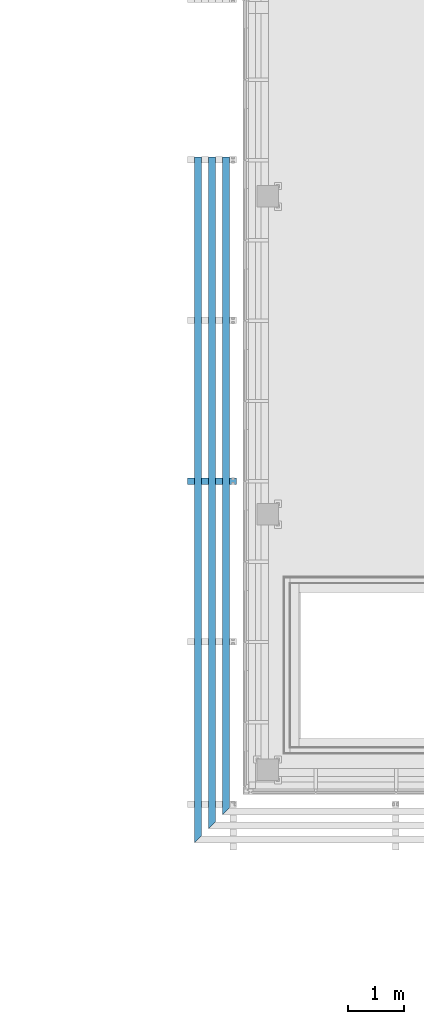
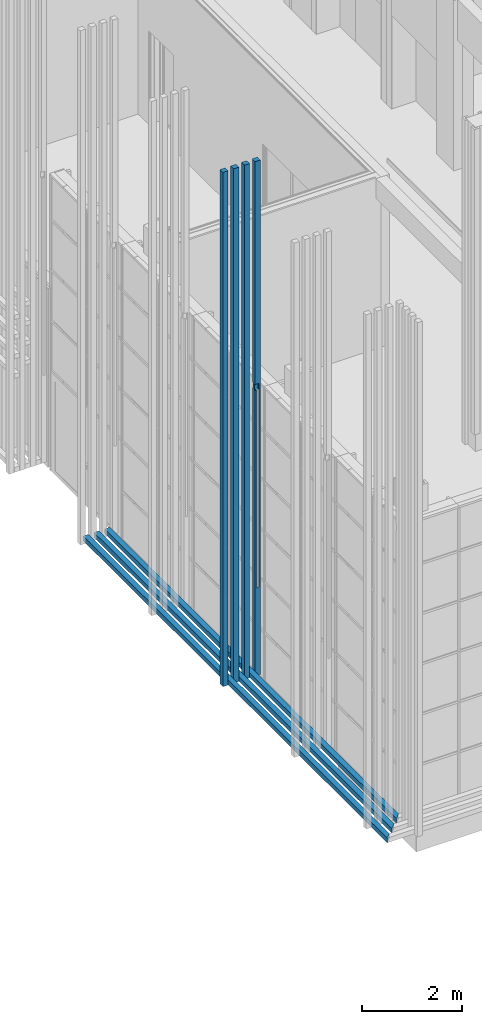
# One storey, part 130 of 260: 2 discrete accessories.
"""IFC2X3 building model written with IfcOpenShell, lengths in millimetres."""

from ifc_helpers import new_model, entity, si_unit, converted_unit, derived_unit, money_unit, direction, frame, origin_with_axes, place, context, subcontext, project, spatial, faceted_brep, material, material_list, type_object, element, save


model = new_model("IFC2X3")

# Units and contexts
model_context = context("Model", 3, precision=0.01, world=origin_with_axes(), true_north=direction((0.0, 1.0)))
body_context = subcontext(model_context, "Body", "Model", "MODEL_VIEW")
ifc_project = project(units=[si_unit("LENGTHUNIT", "METRE", prefix="MILLI"), si_unit("AREAUNIT", "SQUARE_METRE"), si_unit("VOLUMEUNIT", "CUBIC_METRE"), converted_unit("PLANEANGLEUNIT", "DEGREE", entity("IfcPlaneAngleMeasure", 0.0174532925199), si_unit("PLANEANGLEUNIT", "RADIAN"), dimensions=[0, 0, 0, 0, 0, 0, 0]), money_unit("EUR"), converted_unit("TIMEUNIT", "Year", entity("IfcTimeMeasure", 31556926.0), si_unit("TIMEUNIT", "SECOND"), dimensions=[0, 0, 1, 0, 0, 0, 0]), si_unit("MASSUNIT", "GRAM", prefix="KILO"), si_unit("THERMODYNAMICTEMPERATUREUNIT", "DEGREE_CELSIUS"), si_unit("LUMINOUSINTENSITYUNIT", "LUMEN"), si_unit("ENERGYUNIT", "JOULE", prefix="MEGA"), derived_unit("THERMALCONDUCTANCEUNIT", [(si_unit("POWERUNIT", "WATT"), 1), (si_unit("LENGTHUNIT", "METRE"), -1), (si_unit("THERMODYNAMICTEMPERATUREUNIT", "KELVIN"), -1)]), derived_unit("SPECIFICHEATCAPACITYUNIT", [(si_unit("ENERGYUNIT", "JOULE"), 1), (si_unit("MASSUNIT", "GRAM", prefix="KILO"), -1), (si_unit("THERMODYNAMICTEMPERATUREUNIT", "KELVIN"), -1)]), derived_unit("MASSDENSITYUNIT", [(si_unit("MASSUNIT", "GRAM", prefix="KILO"), 1), (si_unit("VOLUMEUNIT", "CUBIC_METRE"), -1)])], contexts=[model_context])

# Site, building, storey
site_placement = place(None, origin_with_axes())
site = spatial("IfcSite", under=ifc_project, at=site_placement, Name="Kolde pst 67a", CompositionType="ELEMENT")
building_placement = place(site_placement, origin_with_axes())
building = spatial("IfcBuilding", under=site, at=building_placement, Name="Riigigümnaasium", CompositionType="ELEMENT")
storey_placement = place(building_placement, origin_with_axes())
storey = spatial("IfcBuildingStorey", under=building, at=storey_placement, Name="1. korrus", CompositionType="ELEMENT", Elevation=0.0)

# Discrete accessories
ifc_material = material(Name="_VÄLISVIIMISTLUS - sõrmjätkatud puitprussid 120x115mm, liitekohad vähemärgatavad, Platowood sõrmjätkatud kuusk või samaväärne; eeltöödeldud tuletõkkevõõbaga, tuletundlikkus B-s1, d0, Woodsafe Exterior WFX™ või samaväärne; kinnitused vastavalt EK osale")
ifc_material_list_1 = material_list([ifc_material, ifc_material, ifc_material, ifc_material])
discrete_accessory_type_1 = type_object("IfcDiscreteAccessoryType", Name="120 4-ne vertikaalne 870 x 115")
discrete_accessory_1_placement = place(storey_placement, frame((23687.9849225, 29383.0008602, 280.0), z_axis=(0.0, 0.0, 1.0), x_axis=(0.999999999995, 3.13999128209e-06, 0.0)))
element("IfcDiscreteAccessory", 1, at=discrete_accessory_1_placement, inside=storey, type_object=discrete_accessory_type_1, material=ifc_material_list_1, Name="Päikesevarjestus", context=body_context, shape_type="Brep", body=[
    faceted_brep([(-97.981922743, -35.0000000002, 6990.0), (-47.9819227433, -35.0001569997, 6990.0), (-47.817497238, -35.000157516, 6990.0), (-47.817497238, -35.000157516, 7140.0), (-133.0, -34.9998900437, 7140.0), (-133.0, -34.9998900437, 6990.0), (-97.981922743, -35.0000000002, 2146.5), (-47.9819227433, -35.0001569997, 2146.5), (-47.982032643, -70.0001569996, 6990.0), (-47.8176071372, -70.0, 6990.0), (-47.8176071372, -70.0, 7140.0), (-133.0, -70.0, 7140.0), (-133.0, -70.0, 6990.0), (-133.0, -70.0, 12600.0), (-133.0, 45.0, 12600.0), (-133.0, 45.0, 7140.0), (-133.0, 9.99985875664, 7140.0), (-133.0, 9.99985875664, 6990.0), (-133.0, 45.0, 6990.0), (-133.0, 45.0, 0.0), (-133.0, -70.0, 0.0), (-97.9820326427, -70.0, 6990.0), (-97.9820326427, -70.0, 2146.5), (-47.982032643, -70.0001569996, 2146.5), (-13.0, -70.0, 0.0), (-13.0, -70.0, 12600.0), (-13.0, 45.0, 12600.0), (-97.9820326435, 44.9997488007, 6990.0), (-97.9820326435, 44.9997488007, 2146.5), (-47.9820326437, 44.9995918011, 2146.5), (-47.9820326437, 44.9995918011, 6990.0), (-47.644105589, 45.0, 6990.0), (-47.644105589, 45.0, 7140.0), (-13.0, 45.0, 0.0), (-47.6442154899, 9.99959074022, 7140.0), (-47.6442154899, 9.99959074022, 6990.0), (-47.9821425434, 9.99959180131, 6990.0), (-97.9821425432, 9.99974880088, 6990.0), (-97.9821425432, 9.99974880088, 2146.5), (-47.9821425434, 9.99959180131, 2146.5)], [[[0, 1, 2, 3, 4, 5]], [[1, 0, 6, 7]], [[1, 8, 9, 2]], [[3, 2, 9, 10]], [[4, 3, 10, 11]], [[12, 5, 4, 11, 13, 14, 15, 16, 17, 18, 19, 20]], [[21, 0, 5, 12]], [[0, 21, 22, 6]], [[22, 23, 7, 6]], [[8, 1, 7, 23]], [[22, 21, 12, 20, 24, 25, 13, 11, 10, 9, 8, 23]], [[25, 26, 14, 13]], [[27, 28, 29, 30, 31, 32, 15, 14, 26, 33, 19, 18]], [[34, 16, 15, 32]], [[35, 36, 37, 17, 16, 34]], [[17, 37, 27, 18]], [[19, 33, 24, 20]], [[33, 26, 25, 24]], [[38, 28, 27, 37]], [[39, 29, 28, 38]], [[39, 36, 30, 29]], [[31, 30, 36, 35]], [[35, 34, 32, 31]], [[38, 37, 36, 39]]]),
    faceted_brep([(-383.0, -70.0, 0.0), (-263.0, -70.0, 0.0), (-263.0, -70.0, 12600.0), (-383.0, -70.0, 12600.0), (-383.0, 45.0, 0.0), (-263.0, 45.0, 0.0), (-263.0, 45.0, 12600.0), (-383.0, 45.0, 12600.0)], [[[0, 1, 2, 3]], [[0, 4, 5, 1]], [[1, 5, 6, 2]], [[3, 2, 6, 7]], [[4, 0, 3, 7]], [[5, 4, 7, 6]]]),
    faceted_brep([(-633.0, -70.0, 0.0), (-513.0, -70.0, 0.0), (-513.0, -70.0, 12600.0), (-633.0, -70.0, 12600.0), (-633.0, 45.0, 0.0), (-513.0, 45.0, 0.0), (-513.0, 45.0, 12600.0), (-633.0, 45.0, 12600.0)], [[[0, 1, 2, 3]], [[0, 4, 5, 1]], [[1, 5, 6, 2]], [[3, 2, 6, 7]], [[4, 0, 3, 7]], [[5, 4, 7, 6]]]),
    faceted_brep([(-883.0, -70.0, 0.0), (-763.0, -70.0, 0.0), (-763.0, -70.0, 12600.0), (-883.0, -70.0, 12600.0), (-883.0, 45.0, 0.0), (-763.0, 45.0, 0.0), (-763.0, 45.0, 12600.0), (-883.0, 45.0, 12600.0)], [[[0, 1, 2, 3]], [[0, 4, 5, 1]], [[1, 5, 6, 2]], [[3, 2, 6, 7]], [[4, 0, 3, 7]], [[5, 4, 7, 6]]]),
])
ifc_material_list_2 = material_list([ifc_material, ifc_material, ifc_material])
discrete_accessory_type_2 = type_object("IfcDiscreteAccessoryType", Name="120 1+paiksekaitse 3 tk  620 x 115")
discrete_accessory_2_placement = place(storey_placement, frame((23674.9668127, 35137.4844785, 352.5), z_axis=(0.0, 0.0, 1.0), x_axis=(-0.999999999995, -3.13999125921e-06, 0.0)))
element("IfcDiscreteAccessory", 2, at=discrete_accessory_2_placement, inside=storey, type_object=discrete_accessory_type_2, material=ifc_material_list_2, Name="Päikesevarjestus", context=body_context, shape_type="Brep", body=[
    faceted_brep([(625.0, 12087.4825434, 45.0), (625.0, 0.0, 45.0), (745.0, 0.0, 45.0), (745.0, 12207.4821666, 45.0), (625.0, 12087.4825434, -70.0), (625.0, 0.0, -70.0), (745.0, 0.0, -70.0), (745.0, 12207.4821666, -70.0)], [[[0, 1, 2, 3]], [[4, 5, 1, 0]], [[5, 6, 2, 1]], [[3, 2, 6, 7]], [[4, 0, 3, 7]], [[7, 6, 5, 4]]]),
    faceted_brep([(375.0, 11837.4833284, 45.0), (375.0, 0.0, 45.0), (495.0, 0.0, 45.0), (495.0, 11957.4829516, 45.0), (375.0, 11837.4833284, -70.0), (375.0, 0.0, -70.0), (495.0, 0.0, -70.0), (495.0, 11957.4829516, -70.0)], [[[0, 1, 2, 3]], [[4, 5, 1, 0]], [[5, 6, 2, 1]], [[3, 2, 6, 7]], [[4, 0, 3, 7]], [[7, 6, 5, 4]]]),
    faceted_brep([(125.0, 11587.4841134, 45.0), (125.0, 0.0, 45.0), (245.0, 0.0, 45.0), (245.0, 11707.4837366, 45.0), (125.0, 11587.4841134, -70.0), (125.0, 0.0, -70.0), (245.0, 0.0, -70.0), (245.0, 11707.4837366, -70.0)], [[[0, 1, 2, 3]], [[4, 5, 1, 0]], [[5, 6, 2, 1]], [[3, 2, 6, 7]], [[4, 0, 3, 7]], [[7, 6, 5, 4]]]),
])

save(model, "model.ifc")
